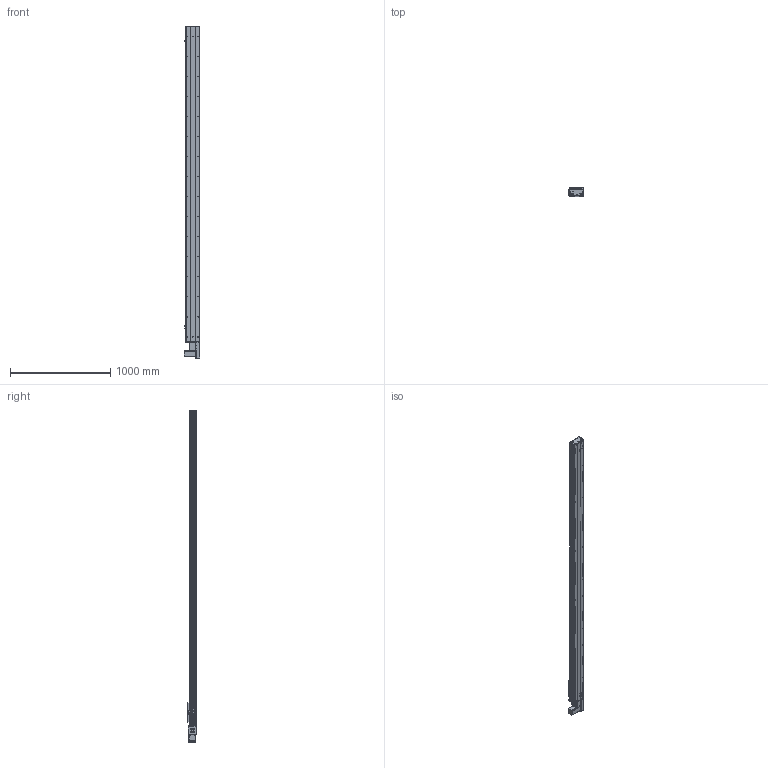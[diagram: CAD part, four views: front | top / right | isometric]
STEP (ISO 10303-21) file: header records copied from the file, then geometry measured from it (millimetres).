
FILE_DESCRIPTION (( 'STEP AP203' ), '1' );
FILE_NAME ('Y135CB-D90-S2850-BL-P400W.STEP', '2020-02-18T01:50:03', ( '微软用户' ), ( '微软中国' ), 'SwSTEP 2.0', 'SolidWorks 2017', '' );
FILE_SCHEMA (( 'CONFIG_CONTROL_DESIGN' ));
Length unit declared in the file: millimetre
Products named in the file (18): C-詩湍揤踡え-陔; Y10B--々湍喘謫眊--666; 135CB--詩湍-CE; Y10B-耜蚾蟀諉啣----; Y100-135俋离換覜ん--; Y俋欶BR----; Y135C-陔俋离換覜結え-; 0B-埴倛裔啣; 5C--俋欶; 0B-源倛裔啣; C-雄赽釱--; 0B-萇儂楊擘啣; Y135CB-D90-S2850-BL-P400W; san松下电机400不带刹车----; Y135CB-耜裔; 5CB --掛极耜裔啣-; 135CB---遴掛极.-; 35CB---喘謫眊楊擘啣
Assembly tree (21 placements, depth 2):
  Y135CB-D90-S2850-BL-P400W
    Y135CB-耜裔
    135CB---遴掛极.-
    35CB---喘謫眊楊擘啣
    Y10B--々湍喘謫眊--666
    Y10B-耜蚾蟀諉啣----
    Y俋欶BR----
    0B-埴倛裔啣
    0B-源倛裔啣
    0B-萇儂楊擘啣
    san松下电机400不带刹车----
    5CB --掛极耜裔啣-  x2
    C-詩湍揤踡え-陔  x2
    135CB--詩湍-CE
    Y100-135俋离換覜ん--  x3
    Y135C-陔俋离換覜結え-
    5C--俋欶
    C-雄赽釱--
Bounding box: 157.5 x 91 x 3314.5 mm (x, y, z)
Volume: 9191645.1 mm3; surface area: 3645965.7 mm2
Topology: 21 solids, 21 shells, 981 faces, 2689 edges, 1782 vertices
Faces by surface type: cylinder 507, plane 458, cone 16
Entity records: 31159 total; most frequent: CARTESIAN_POINT 5208, DIRECTION 5177, ORIENTED_EDGE 4854, EDGE_CURVE 2427, AXIS2_PLACEMENT_3D 1899, VERTEX_POINT 1610, VECTOR 1379, LINE 1379
